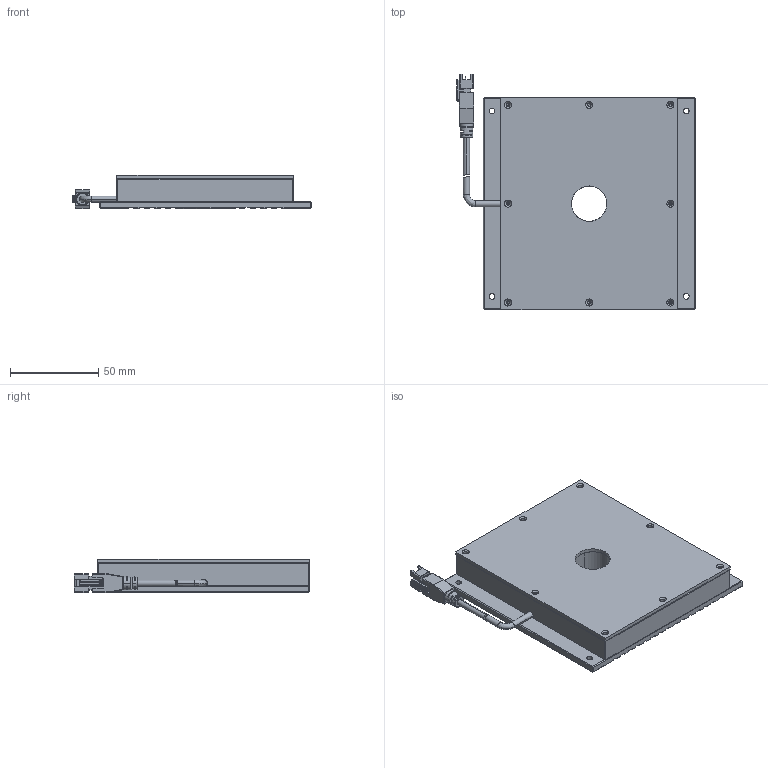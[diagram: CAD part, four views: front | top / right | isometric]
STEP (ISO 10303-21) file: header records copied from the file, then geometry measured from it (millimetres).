
FILE_DESCRIPTION (( 'STEP AP214' ), '1' );
FILE_NAME ('CST-KHFS10585Y20-×°ÅäÌå1.STEP', '2022-05-16T03:46:25', ( '' ), ( '' ), 'SwSTEP 2.0', 'SolidWorks 2018', '' );
FILE_SCHEMA (( 'AUTOMOTIVE_DESIGN' ));
Length unit declared in the file: millimetre
Products named in the file (2): CST-KHFS10585Y20-蚾饜极1
Bounding box: 134.95 x 133.23 x 19 mm (x, y, z)
Surface area: 80969 mm2 (no closed solid volume)
Topology: 0 solids, 6 shells, 601 faces, 1609 edges, 993 vertices
Faces by surface type: plane 308, cylinder 192, cone 67, bspline 28, torus 6
Entity records: 25687 total; most frequent: CARTESIAN_POINT 4025, DIRECTION 3140, ORIENTED_EDGE 3075, EDGE_CURVE 1561, AXIS2_PLACEMENT_3D 1056, LINE 1028, VECTOR 1028, VERTEX_POINT 993
